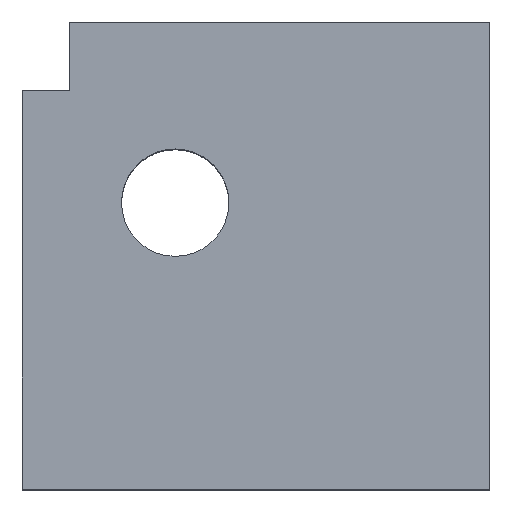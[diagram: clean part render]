
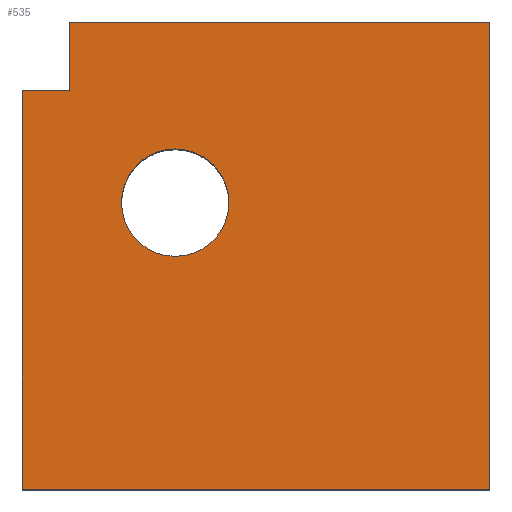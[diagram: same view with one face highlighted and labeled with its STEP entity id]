
A CAD part, top view. The second image highlights one B-rep face of the part: STEP entity #535.
In plain terms, the highlighted planar face has unit normal (0, 0, 1).
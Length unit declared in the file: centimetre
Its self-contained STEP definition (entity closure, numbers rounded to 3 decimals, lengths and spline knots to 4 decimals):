
#68 = CARTESIAN_POINT ( 'NONE',  ( 0., 0., 1000. ) ) ;
#90 = LINE ( 'NONE', #897, #786 ) ;
#161 = PLANE ( 'NONE',  #625 ) ;
#190 = VERTEX_POINT ( 'NONE', #840 ) ;
#232 = CARTESIAN_POINT ( 'NONE',  ( 100.9604, 853.3244, 1000. ) ) ;
#243 = VECTOR ( 'NONE', #355, 100. ) ;
#319 = AXIS2_PLACEMENT_3D ( 'NONE', #1133, #1243, #547 ) ;
#320 = VERTEX_POINT ( 'NONE', #699 ) ;
#333 = CARTESIAN_POINT ( 'NONE',  ( 1000., 0., 1000. ) ) ;
#355 = DIRECTION ( 'NONE',  ( 1., 0., 0. ) ) ;
#385 = VERTEX_POINT ( 'NONE', #1035 ) ;
#390 = ORIENTED_EDGE ( 'NONE', *, *, #875, .T. ) ;
#396 = DIRECTION ( 'NONE',  ( -1., 0., 0. ) ) ;
#404 = EDGE_LOOP ( 'NONE', ( #390, #493 ) ) ;
#450 = LINE ( 'NONE', #843, #787 ) ;
#466 = DIRECTION ( 'NONE',  ( 0., -1., 0. ) ) ;
#485 = ORIENTED_EDGE ( 'NONE', *, *, #525, .T. ) ;
#489 = CARTESIAN_POINT ( 'NONE',  ( 1000., 1000., 1000. ) ) ;
#493 = ORIENTED_EDGE ( 'NONE', *, *, #858, .T. ) ;
#508 = CARTESIAN_POINT ( 'NONE',  ( 0., 1000., 1000. ) ) ;
#525 = EDGE_CURVE ( 'NONE', #385, #899, #90, .T. ) ;
#526 = DIRECTION ( 'NONE',  ( 0., 1., 0. ) ) ;
#529 = VECTOR ( 'NONE', #396, 100. ) ;
#535 = ADVANCED_FACE ( 'NONE', ( #561, #554 ), #161, .T. ) ;
#547 = DIRECTION ( 'NONE',  ( -1., 0., 0. ) ) ;
#554 = FACE_BOUND ( 'NONE', #404, .T. ) ;
#561 = FACE_OUTER_BOUND ( 'NONE', #1020, .T. ) ;
#569 = CARTESIAN_POINT ( 'NONE',  ( 0., 0., 1000. ) ) ;
#581 = DIRECTION ( 'NONE',  ( 0., 0., -1. ) ) ;
#582 = DIRECTION ( 'NONE',  ( 0., 0., 1. ) ) ;
#625 = AXIS2_PLACEMENT_3D ( 'NONE', #569, #582, #1295 ) ;
#634 = LINE ( 'NONE', #931, #1203 ) ;
#671 = AXIS2_PLACEMENT_3D ( 'NONE', #754, #581, #1154 ) ;
#693 = VERTEX_POINT ( 'NONE', #489 ) ;
#699 = CARTESIAN_POINT ( 'NONE',  ( 212.012, 613.353, 1000. ) ) ;
#718 = CARTESIAN_POINT ( 'NONE',  ( 0., 853.3244, 1000. ) ) ;
#728 = CIRCLE ( 'NONE', #671, 114.9862 ) ;
#754 = CARTESIAN_POINT ( 'NONE',  ( 326.9982, 613.353, 1000. ) ) ;
#786 = VECTOR ( 'NONE', #466, 100. ) ;
#787 = VECTOR ( 'NONE', #1065, 100. ) ;
#824 = VERTEX_POINT ( 'NONE', #232 ) ;
#835 = CARTESIAN_POINT ( 'NONE',  ( 441.9844, 613.353, 1000. ) ) ;
#837 = VERTEX_POINT ( 'NONE', #835 ) ;
#838 = EDGE_CURVE ( 'NONE', #385, #824, #1034, .T. ) ;
#840 = CARTESIAN_POINT ( 'NONE',  ( 100.9604, 1000., 1000. ) ) ;
#843 = CARTESIAN_POINT ( 'NONE',  ( 100.9604, 853.3244, 1000. ) ) ;
#858 = EDGE_CURVE ( 'NONE', #837, #320, #889, .T. ) ;
#868 = LINE ( 'NONE', #68, #243 ) ;
#875 = EDGE_CURVE ( 'NONE', #320, #837, #728, .T. ) ;
#889 = CIRCLE ( 'NONE', #319, 114.9862 ) ;
#897 = CARTESIAN_POINT ( 'NONE',  ( 0., 1000., 1000. ) ) ;
#899 = VERTEX_POINT ( 'NONE', #1260 ) ;
#927 = ORIENTED_EDGE ( 'NONE', *, *, #937, .F. ) ;
#931 = CARTESIAN_POINT ( 'NONE',  ( 1000., 1000., 1000. ) ) ;
#937 = EDGE_CURVE ( 'NONE', #824, #190, #450, .T. ) ;
#953 = ORIENTED_EDGE ( 'NONE', *, *, #958, .T. ) ;
#958 = EDGE_CURVE ( 'NONE', #899, #1248, #868, .T. ) ;
#966 = ORIENTED_EDGE ( 'NONE', *, *, #1120, .T. ) ;
#1020 = EDGE_LOOP ( 'NONE', ( #927, #1046, #485, #953, #1094, #966 ) ) ;
#1029 = DIRECTION ( 'NONE',  ( 1., 0., 0. ) ) ;
#1034 = LINE ( 'NONE', #718, #1064 ) ;
#1035 = CARTESIAN_POINT ( 'NONE',  ( 0., 853.3244, 1000. ) ) ;
#1046 = ORIENTED_EDGE ( 'NONE', *, *, #838, .F. ) ;
#1064 = VECTOR ( 'NONE', #1029, 100. ) ;
#1065 = DIRECTION ( 'NONE',  ( 0., 1., 0. ) ) ;
#1094 = ORIENTED_EDGE ( 'NONE', *, *, #1098, .T. ) ;
#1098 = EDGE_CURVE ( 'NONE', #1248, #693, #634, .T. ) ;
#1120 = EDGE_CURVE ( 'NONE', #693, #190, #1125, .T. ) ;
#1125 = LINE ( 'NONE', #508, #529 ) ;
#1133 = CARTESIAN_POINT ( 'NONE',  ( 326.9982, 613.353, 1000. ) ) ;
#1154 = DIRECTION ( 'NONE',  ( -1., 0., 0. ) ) ;
#1203 = VECTOR ( 'NONE', #526, 100. ) ;
#1243 = DIRECTION ( 'NONE',  ( 0., 0., -1. ) ) ;
#1248 = VERTEX_POINT ( 'NONE', #333 ) ;
#1260 = CARTESIAN_POINT ( 'NONE',  ( 0., 0., 1000. ) ) ;
#1295 = DIRECTION ( 'NONE',  ( 1., 0., 0. ) ) ;
